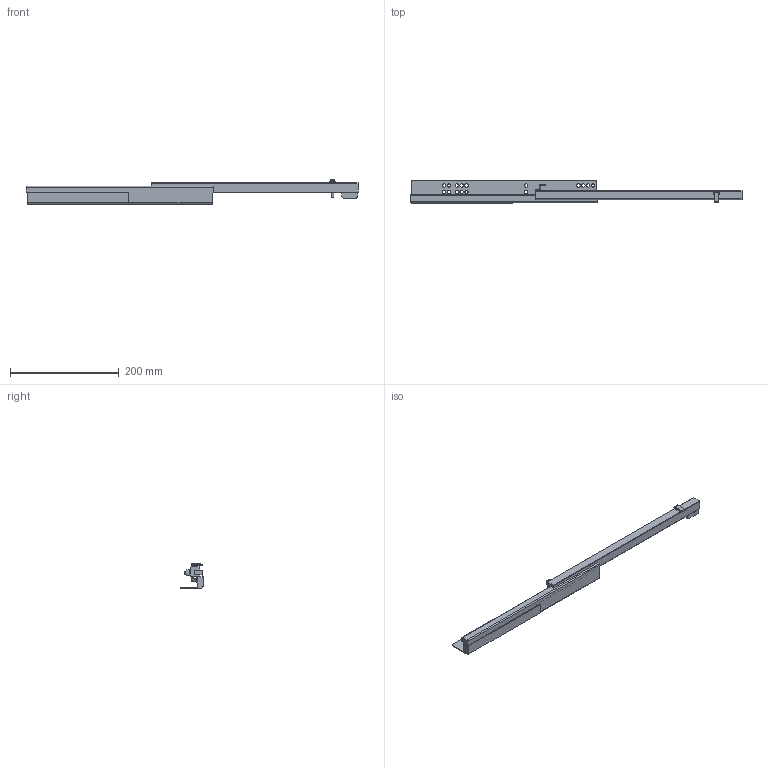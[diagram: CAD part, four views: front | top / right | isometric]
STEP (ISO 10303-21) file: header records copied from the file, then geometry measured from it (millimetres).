
FILE_DESCRIPTION (( 'STEP AP203' ), '1' );
FILE_NAME ('GG10500H-R-DTC3D-open.STEP', '2021-12-10T08:46:45', ( 'df' ), ( 'Microsoft' ), 'SwSTEP 2.0', 'SolidWorks 2018', '' );
FILE_SCHEMA (( 'CONFIG_CONTROL_DESIGN' ));
Length unit declared in the file: millimetre
Products named in the file (1): GG10500H-R-DTC3D-open
Bounding box: 611 x 44.1 x 44.73 mm (x, y, z)
Volume: 221774.3 mm3; surface area: 84230.9 mm2
Topology: 1 solids, 1 shells, 172 faces, 479 edges, 311 vertices
Faces by surface type: cylinder 88, plane 76, bspline 4, sphere 2, cone 2
Entity records: 5757 total; most frequent: CARTESIAN_POINT 1138, ORIENTED_EDGE 954, DIRECTION 951, EDGE_CURVE 477, AXIS2_PLACEMENT_3D 335, VERTEX_POINT 311, LINE 281, VECTOR 281
